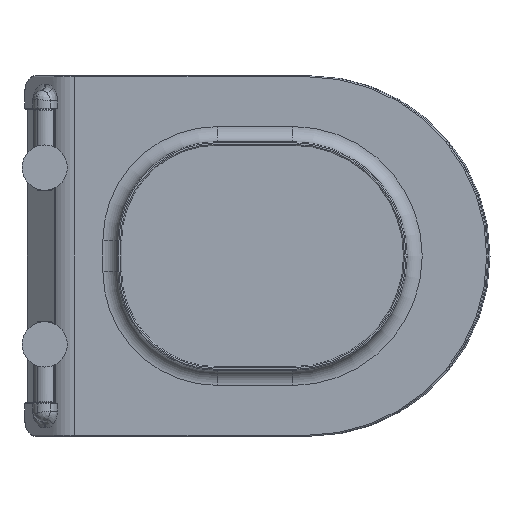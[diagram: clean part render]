
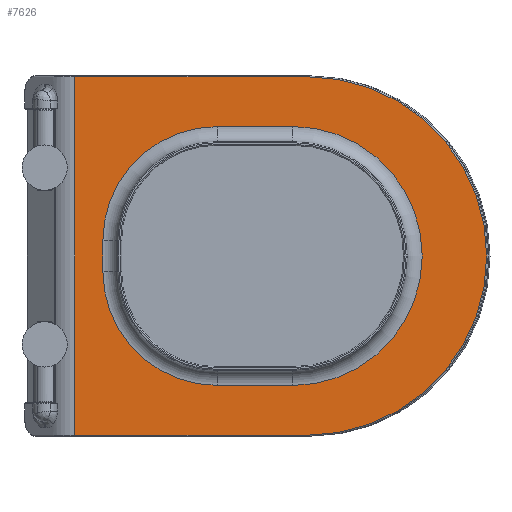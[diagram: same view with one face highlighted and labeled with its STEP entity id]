
A CAD part, front view. The second image highlights one B-rep face of the part: STEP entity #7626.
In plain terms, the highlighted planar face has unit normal (0, -1, 0).
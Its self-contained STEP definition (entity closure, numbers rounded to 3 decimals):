
#5751=CARTESIAN_POINT('',(-38.585,0.,15.));
#5752=DIRECTION('',(0.,-1.,0.));
#5753=DIRECTION('',(0.,0.,1.));
#5754=AXIS2_PLACEMENT_3D('',#5751,#5752,#5753);
#5756=DIRECTION('',(0.,0.,-1.));
#5757=VECTOR('',#5756,30.);
#5758=CARTESIAN_POINT('',(-152.145,0.,15.));
#5759=LINE('',#5758,#5757);
#5760=CARTESIAN_POINT('',(-38.585,0.,-15.));
#5761=DIRECTION('',(0.,-1.,0.));
#5762=DIRECTION('',(-1.,0.,0.));
#5763=AXIS2_PLACEMENT_3D('',#5760,#5761,#5762);
#5765=DIRECTION('',(1.,0.,0.));
#5766=VECTOR('',#5765,75.);
#5767=CARTESIAN_POINT('',(-38.585,0.,-128.56));
#5768=LINE('',#5767,#5766);
#5769=CARTESIAN_POINT('',(36.415,0.,0.));
#5770=DIRECTION('',(0.,-1.,0.));
#5771=DIRECTION('',(0.,0.,-1.));
#5772=AXIS2_PLACEMENT_3D('',#5769,#5770,#5771);
#5774=DIRECTION('',(-1.,0.,0.));
#5775=VECTOR('',#5774,75.);
#5776=CARTESIAN_POINT('',(36.415,0.,128.56));
#5777=LINE('',#5776,#5775);
#5778=DIRECTION('',(-1.,0.,0.));
#5779=VECTOR('',#5778,231.236);
#5780=CARTESIAN_POINT('',(51.,0.,-178.));
#5781=LINE('',#5780,#5779);
#5782=DIRECTION('',(0.,0.,-1.));
#5783=VECTOR('',#5782,356.);
#5784=CARTESIAN_POINT('',(-180.236,0.,178.));
#5785=LINE('',#5784,#5783);
#5786=DIRECTION('',(1.,0.,0.));
#5787=VECTOR('',#5786,231.236);
#5788=CARTESIAN_POINT('',(-180.236,0.,178.));
#5789=LINE('',#5788,#5787);
#5790=CARTESIAN_POINT('',(51.,0.,0.));
#5791=DIRECTION('',(0.,1.,0.));
#5792=DIRECTION('',(0.,0.,1.));
#5793=AXIS2_PLACEMENT_3D('',#5790,#5791,#5792);
#7295=CARTESIAN_POINT('',(-38.585,0.,128.56));
#7296=CARTESIAN_POINT('',(-152.145,0.,15.));
#7297=VERTEX_POINT('',#7295);
#7298=VERTEX_POINT('',#7296);
#7299=CARTESIAN_POINT('',(-152.145,0.,-15.));
#7300=VERTEX_POINT('',#7299);
#7301=CARTESIAN_POINT('',(-38.585,0.,-128.56));
#7302=VERTEX_POINT('',#7301);
#7303=CARTESIAN_POINT('',(36.415,0.,-128.56));
#7304=VERTEX_POINT('',#7303);
#7305=CARTESIAN_POINT('',(36.415,0.,128.56));
#7306=VERTEX_POINT('',#7305);
#7379=CARTESIAN_POINT('',(-180.236,0.,-178.));
#7380=VERTEX_POINT('',#7379);
#7383=CARTESIAN_POINT('',(51.,0.,-178.));
#7384=VERTEX_POINT('',#7383);
#7387=CARTESIAN_POINT('',(51.,0.,178.));
#7388=VERTEX_POINT('',#7387);
#7391=CARTESIAN_POINT('',(-180.236,0.,178.));
#7392=VERTEX_POINT('',#7391);
#7597=CARTESIAN_POINT('',(0.,0.,0.));
#7598=DIRECTION('',(0.,1.,0.));
#7599=DIRECTION('',(1.,0.,0.));
#7600=AXIS2_PLACEMENT_3D('',#7597,#7598,#7599);
#7601=PLANE('',#7600);
#7603=ORIENTED_EDGE('',*,*,#7602,.T.);
#7605=ORIENTED_EDGE('',*,*,#7604,.F.);
#7607=ORIENTED_EDGE('',*,*,#7606,.T.);
#7609=ORIENTED_EDGE('',*,*,#7608,.T.);
#7610=EDGE_LOOP('',(#7603,#7605,#7607,#7609));
#7611=FACE_OUTER_BOUND('',#7610,.F.);
#7613=ORIENTED_EDGE('',*,*,#7612,.T.);
#7615=ORIENTED_EDGE('',*,*,#7614,.T.);
#7617=ORIENTED_EDGE('',*,*,#7616,.T.);
#7619=ORIENTED_EDGE('',*,*,#7618,.T.);
#7621=ORIENTED_EDGE('',*,*,#7620,.T.);
#7623=ORIENTED_EDGE('',*,*,#7622,.T.);
#7624=EDGE_LOOP('',(#7613,#7615,#7617,#7619,#7621,#7623));
#7625=FACE_BOUND('',#7624,.F.);
#7626=ADVANCED_FACE('',(#7611,#7625),#7601,.F.);
#5755=CIRCLE('',#5754,113.56);
#5764=CIRCLE('',#5763,113.56);
#5773=CIRCLE('',#5772,128.56);
#5794=CIRCLE('',#5793,178.);
#7602=EDGE_CURVE('',#7384,#7380,#5781,.T.);
#7604=EDGE_CURVE('',#7392,#7380,#5785,.T.);
#7606=EDGE_CURVE('',#7392,#7388,#5789,.T.);
#7608=EDGE_CURVE('',#7388,#7384,#5794,.T.);
#7612=EDGE_CURVE('',#7297,#7298,#5755,.T.);
#7614=EDGE_CURVE('',#7298,#7300,#5759,.T.);
#7616=EDGE_CURVE('',#7300,#7302,#5764,.T.);
#7618=EDGE_CURVE('',#7302,#7304,#5768,.T.);
#7620=EDGE_CURVE('',#7304,#7306,#5773,.T.);
#7622=EDGE_CURVE('',#7306,#7297,#5777,.T.);
